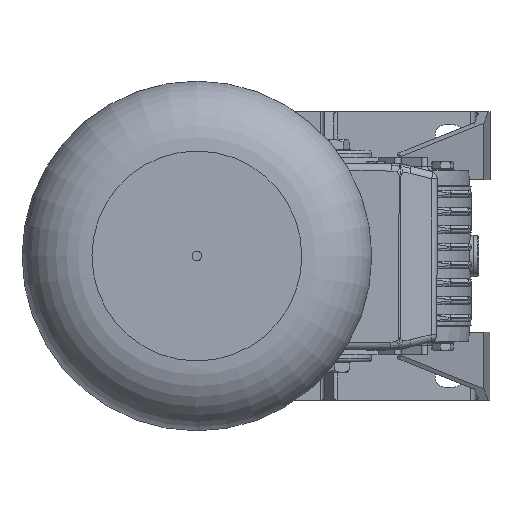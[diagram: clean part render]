
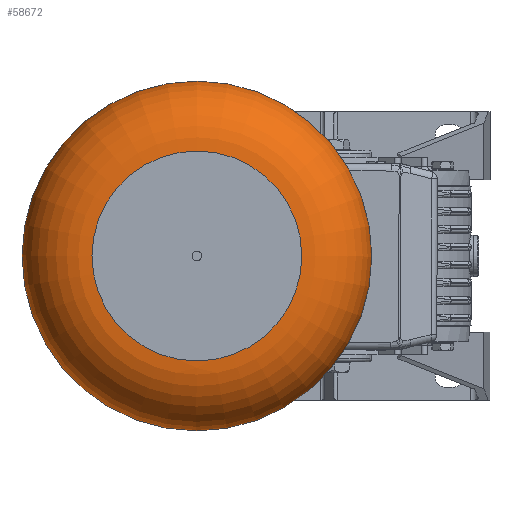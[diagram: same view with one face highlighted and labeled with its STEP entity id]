
A CAD part, left-side view. The second image highlights one B-rep face of the part: STEP entity #58672.
In plain terms, the highlighted toroidal (fillet/blend) face has major radius 55.5 mm and minor radius 37 mm.
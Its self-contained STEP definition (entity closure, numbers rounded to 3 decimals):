
#58645=CARTESIAN_POINT('',(375.0,0.0,0.0));
#58646=DIRECTION('',(1.0,0.0,0.0));
#58647=DIRECTION('',(0.0,0.0,-1.0));
#58648=AXIS2_PLACEMENT_3D('',#58645,#58646,#58647);
#58649=TOROIDAL_SURFACE('',#58648,55.5,37.0);
#58650=CARTESIAN_POINT('',(412.0,55.5,0.0));
#58651=VERTEX_POINT('',#58650);
#58652=CARTESIAN_POINT('',(412.0,0.0,0.0));
#58653=DIRECTION('',(1.0,0.0,0.0));
#58654=DIRECTION('',(0.0,1.0,0.0));
#58655=AXIS2_PLACEMENT_3D('',#58652,#58653,#58654);
#58656=CIRCLE('',#58655,55.5);
#58657=EDGE_CURVE('',#58651,#58651,#58656,.T.);
#58658=ORIENTED_EDGE('',*,*,#58657,.F.);
#58659=EDGE_LOOP('',(#58658));
#58660=FACE_OUTER_BOUND('',#58659,.T.);
#58661=CARTESIAN_POINT('',(375.0,92.5,0.0));
#58662=VERTEX_POINT('',#58661);
#58663=CARTESIAN_POINT('',(375.0,0.0,0.0));
#58664=DIRECTION('',(1.0,0.0,0.0));
#58665=DIRECTION('',(0.0,1.0,0.0));
#58666=AXIS2_PLACEMENT_3D('',#58663,#58664,#58665);
#58667=CIRCLE('',#58666,92.5);
#58668=EDGE_CURVE('',#58662,#58662,#58667,.T.);
#58669=ORIENTED_EDGE('',*,*,#58668,.T.);
#58670=EDGE_LOOP('',(#58669));
#58671=FACE_BOUND('',#58670,.T.);
#58672=ADVANCED_FACE('',(#58660,#58671),#58649,.T.);
